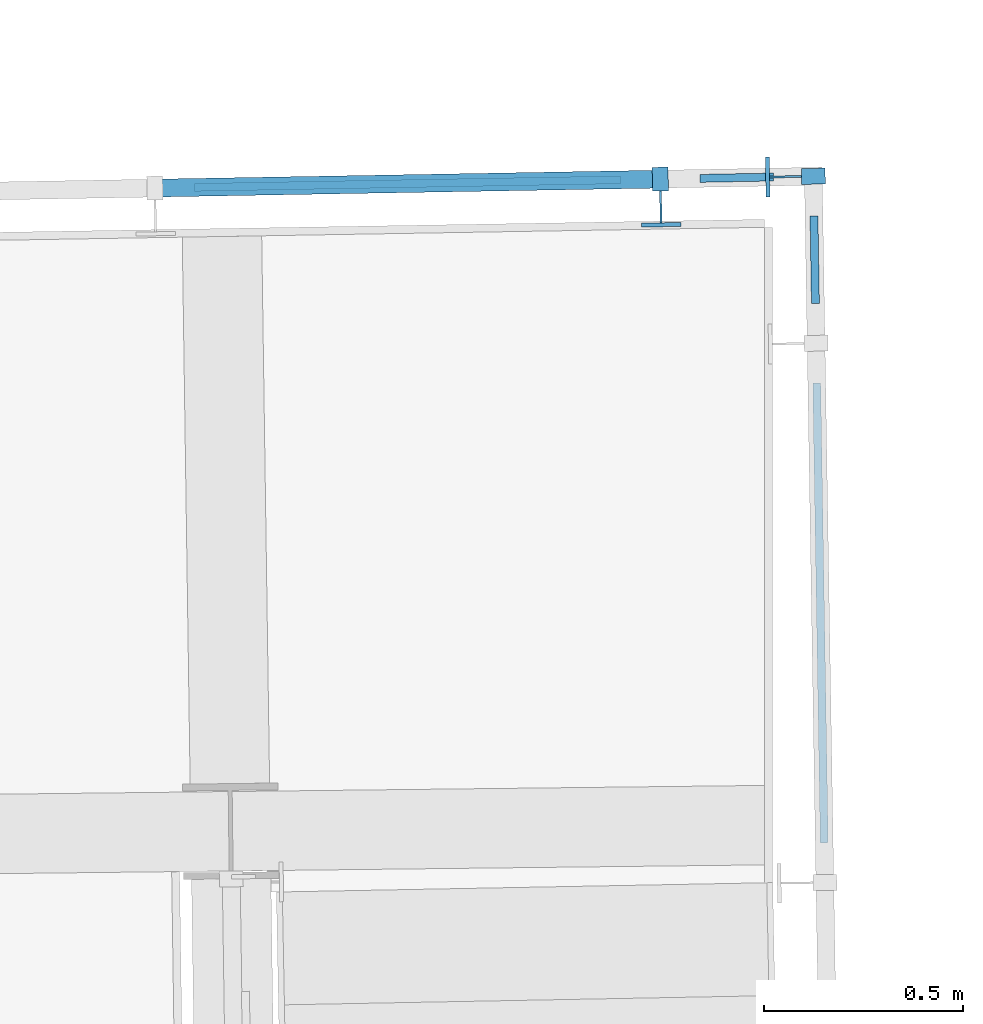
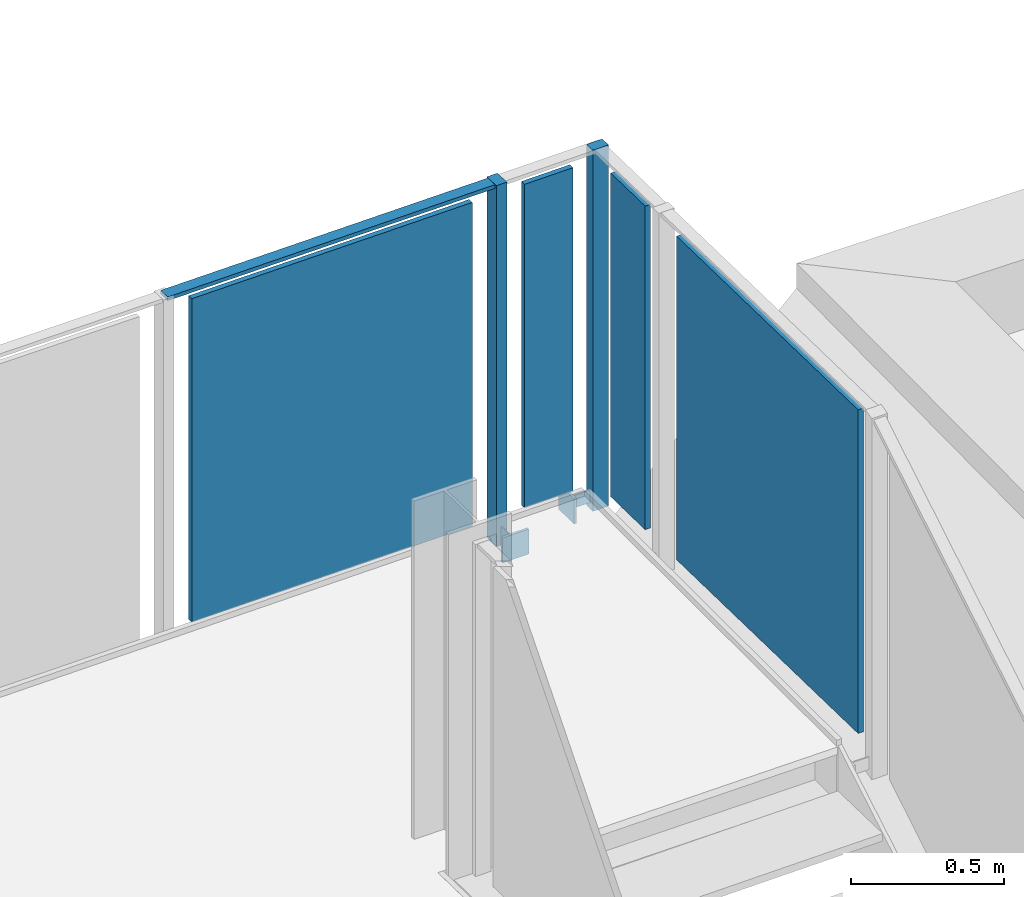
# One storey, part 112 of 158: 7 building element parts, 1 element without a shape of its own.
"""IFC2X3 building model written with IfcOpenShell, lengths in metres."""

from ifc_helpers import new_model, entity, si_unit, converted_unit, derived_unit, money_unit, direction, frame, origin_with_axes, place, context, subcontext, project, spatial, faceted_brep, material, type_object, element, aggregate, save


model = new_model("IFC2X3")

# Units and contexts
model_context = context("Model", 3, precision=1e-05, world=origin_with_axes(), true_north=direction((0.0, 1.0)))
body_context = subcontext(model_context, "Body", "Model", "MODEL_VIEW")
ifc_project = project(units=[si_unit("LENGTHUNIT", "METRE"), si_unit("AREAUNIT", "SQUARE_METRE"), si_unit("VOLUMEUNIT", "CUBIC_METRE"), converted_unit("PLANEANGLEUNIT", "DEGREE", entity("IfcPlaneAngleMeasure", 0.0174532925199), si_unit("PLANEANGLEUNIT", "RADIAN"), dimensions=[0, 0, 0, 0, 0, 0, 0]), money_unit("EUR"), converted_unit("TIMEUNIT", "Year", entity("IfcTimeMeasure", 31556926.0), si_unit("TIMEUNIT", "SECOND"), dimensions=[0, 0, 1, 0, 0, 0, 0]), si_unit("MASSUNIT", "GRAM", prefix="KILO"), si_unit("THERMODYNAMICTEMPERATUREUNIT", "DEGREE_CELSIUS"), si_unit("LUMINOUSINTENSITYUNIT", "LUMEN"), si_unit("ENERGYUNIT", "JOULE", prefix="MEGA"), derived_unit("THERMALCONDUCTANCEUNIT", [(si_unit("POWERUNIT", "WATT"), 1), (si_unit("LENGTHUNIT", "METRE"), -1), (si_unit("THERMODYNAMICTEMPERATUREUNIT", "KELVIN"), -1)]), derived_unit("SPECIFICHEATCAPACITYUNIT", [(si_unit("ENERGYUNIT", "JOULE"), 1), (si_unit("MASSUNIT", "GRAM", prefix="KILO"), -1), (si_unit("THERMODYNAMICTEMPERATUREUNIT", "KELVIN"), -1)]), derived_unit("MASSDENSITYUNIT", [(si_unit("MASSUNIT", "GRAM", prefix="KILO"), 1), (si_unit("VOLUMEUNIT", "CUBIC_METRE"), -1)])], contexts=[model_context])

# Site, building, storey
site_placement = place(None, origin_with_axes())
site = spatial("IfcSite", under=ifc_project, at=site_placement, Name="Gelände", CompositionType="ELEMENT")
building_placement = place(site_placement, origin_with_axes())
building = spatial("IfcBuilding", under=site, at=building_placement, Name="Gebäude", CompositionType="ELEMENT")
storey_placement = place(building_placement, origin_with_axes())
storey = spatial("IfcBuildingStorey", under=building, at=storey_placement, Name="ERDGESCHOSS", CompositionType="ELEMENT", Elevation=0.0)

# Proxy, building element parts
building_element_proxy_type = type_object("IfcBuildingElementProxyType", Name="Geländerart", PredefinedType="NOTDEFINED")
proxy_placement = place(storey_placement, frame((-12.121386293, 39.1724071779, -2.51797066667), z_axis=(0.0, 0.0, 1.0), x_axis=(1.0, 0.0, 0.0)))
proxy = element("IfcBuildingElementProxy", 1, at=proxy_placement, inside=storey, type_object=building_element_proxy_type, Name="Geländer-001")
ifc_material = material(Name="56_Metall, Stahl verzinkt")
building_element_part_1_placement = place(proxy_placement, origin_with_axes())
building_element_part_1 = element("IfcBuildingElementPart", 2, at=building_element_part_1_placement, material=ifc_material, Name="56_Metall, Stahl verzinkt", context=body_context, shape_type="Brep", body=[
    faceted_brep([(-0.0235976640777, 8.35761535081, 3.748423), (-0.0236802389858, 8.36261466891, 3.748423), (-0.103669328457, 8.36129347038, 3.748423), (-0.103586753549, 8.35629415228, 3.748423), (-0.0236802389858, 8.36261466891, 3.698423), (-0.0235976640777, 8.35761535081, 3.698423), (-0.103669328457, 8.36129347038, 3.698423), (-0.103586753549, 8.35629415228, 3.698423)], [[[0, 1, 2, 3]], [[4, 1, 0, 5]], [[1, 4, 6, 2]], [[7, 3, 2, 6]], [[5, 0, 3, 7]], [[4, 5, 7, 6]]]),
    faceted_brep([(-0.112800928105, 8.30863548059, 3.773423), (-0.102802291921, 8.30880063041, 3.773423), (-0.104453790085, 8.40878699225, 3.773423), (-0.114452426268, 8.40862184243, 3.773423), (-0.112800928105, 8.30863548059, 3.673423), (-0.102802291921, 8.30880063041, 3.673423), (-0.104453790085, 8.40878699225, 3.673423), (-0.114452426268, 8.40862184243, 3.673423)], [[[0, 1, 2, 3]], [[4, 5, 1, 0]], [[1, 5, 6, 2]], [[3, 2, 6, 7]], [[0, 3, 7, 4]], [[7, 6, 5, 4]]]),
    faceted_brep([(0.0360225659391, 8.38110318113, 3.673423), (-0.0239692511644, 8.38011228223, 3.673423), (-0.0239692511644, 8.38011228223, 5.118423), (0.0360225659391, 8.38110318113, 5.118423), (0.0366831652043, 8.34110863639, 3.673423), (-0.0233086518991, 8.34011773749, 3.673423), (-0.0233086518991, 8.34011773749, 5.118423), (0.0366831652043, 8.34110863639, 5.118423)], [[[0, 1, 2, 3]], [[0, 4, 5, 1]], [[1, 5, 6, 2]], [[3, 2, 6, 7]], [[4, 0, 3, 7]], [[5, 4, 7, 6]]]),
])
building_element_part_2_placement = place(proxy_placement, origin_with_axes())
building_element_part_2 = element("IfcBuildingElementPart", 3, at=building_element_part_2_placement, material=ifc_material, Name="56_Metall, Stahl verzinkt", context=body_context, shape_type="Brep", body=[
    faceted_brep([(-0.375842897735, 8.32349191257, 3.748423), (-0.38084203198, 8.32339887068, 3.748423), (-0.379353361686, 8.24341272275, 3.748423), (-0.37435422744, 8.24350576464, 3.748423), (-0.38084203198, 8.32339887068, 3.698423), (-0.375842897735, 8.32349191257, 3.698423), (-0.379353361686, 8.24341272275, 3.698423), (-0.37435422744, 8.24350576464, 3.698423)], [[[0, 1, 2, 3]], [[4, 1, 0, 5]], [[1, 4, 6, 2]], [[7, 3, 2, 6]], [[5, 0, 3, 7]], [[4, 5, 7, 6]]]),
    faceted_brep([(-0.32667636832, 8.23439139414, 3.773423), (-0.326862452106, 8.24438966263, 3.773423), (-0.426845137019, 8.24252882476, 3.773423), (-0.426659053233, 8.23253055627, 3.773423), (-0.32667636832, 8.23439139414, 3.673423), (-0.326862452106, 8.24438966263, 3.673423), (-0.426845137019, 8.24252882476, 3.673423), (-0.426659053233, 8.23253055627, 3.673423)], [[[0, 1, 2, 3]], [[4, 5, 1, 0]], [[1, 5, 6, 2]], [[3, 2, 6, 7]], [[0, 3, 7, 4]], [[7, 6, 5, 4]]]),
    faceted_brep([(-0.399455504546, 8.383062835, 3.67343830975), (-0.398339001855, 8.32307322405, 3.67343827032), (-0.398339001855, 8.32307322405, 5.11843827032), (-0.399455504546, 8.383062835, 5.11843830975), (-0.35946243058, 8.38380717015, 3.67340772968), (-0.35834592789, 8.3238175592, 3.67340769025), (-0.35834592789, 8.3238175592, 5.11840769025), (-0.35946243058, 8.38380717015, 5.11840772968)], [[[0, 1, 2, 3]], [[0, 4, 5, 1]], [[1, 5, 6, 2]], [[3, 2, 6, 7]], [[4, 0, 3, 7]], [[5, 4, 7, 6]]]),
])
building_element_part_3_placement = place(proxy_placement, origin_with_axes())
building_element_part_3 = element("IfcBuildingElementPart", 4, at=building_element_part_3_placement, material=ifc_material, Name="56_Metall, Stahl verzinkt", context=body_context, shape_type="Brep", body=[
    faceted_brep([(0.00493221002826, 7.8400687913, 3.773423), (0.0238065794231, 6.68243648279, 3.773423), (0.0238065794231, 6.68243648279, 5.068423), (0.00493221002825, 7.8400687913, 5.068423), (0.0234805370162, 6.70243382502, 5.048423), (0.0234805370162, 6.70243382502, 3.793423), (0.00525825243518, 7.82007144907, 3.793423), (0.00525825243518, 7.82007144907, 5.048423), (0.0438039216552, 6.6827625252, 3.773423), (0.0249295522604, 7.84039483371, 3.773423), (0.0438039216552, 6.6827625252, 5.068423), (0.0249295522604, 7.84039483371, 5.068423), (0.0434778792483, 6.70275986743, 3.793423), (0.0434778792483, 6.70275986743, 5.048423), (0.0252555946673, 7.82039749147, 3.793423), (0.0252555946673, 7.82039749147, 5.048423)], [[[0, 1, 2, 3], [4, 5, 6, 7]], [[8, 1, 0, 9]], [[10, 2, 1, 8]], [[3, 2, 10, 11]], [[0, 3, 11, 9]], [[12, 5, 4, 13]], [[14, 6, 5, 12]], [[7, 6, 14, 15]], [[4, 7, 15, 13]], [[10, 8, 9, 11], [14, 12, 13, 15]]]),
    faceted_brep([(0.00525825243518, 7.82007144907, 3.793423), (0.0234805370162, 6.70243382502, 3.793423), (0.0234805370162, 6.70243382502, 5.048423), (0.00525825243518, 7.82007144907, 5.048423), (0.0434778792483, 6.70275986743, 3.793423), (0.0252555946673, 7.82039749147, 3.793423), (0.0434778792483, 6.70275986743, 5.048423), (0.0252555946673, 7.82039749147, 5.048423)], [[[0, 1, 2, 3]], [[4, 1, 0, 5]], [[6, 2, 1, 4]], [[3, 2, 6, 7]], [[0, 3, 7, 5]], [[6, 4, 5, 7]]]),
])
building_element_part_4_placement = place(proxy_placement, origin_with_axes())
building_element_part_4 = element("IfcBuildingElementPart", 5, at=building_element_part_4_placement, material=ifc_material, Name="56_Metall, Stahl verzinkt", context=body_context, shape_type="Brep", body=[
    faceted_brep([(-0.00199018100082, 8.26045894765, 3.773423), (0.00165053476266, 8.04003973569, 3.773423), (0.00165053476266, 8.04003973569, 5.068423), (-0.00199018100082, 8.26045894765, 5.068423), (0.00132023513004, 8.06003700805, 5.048423), (0.00132023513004, 8.06003700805, 3.793423), (-0.0016598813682, 8.24046167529, 3.793423), (-0.0016598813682, 8.24046167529, 5.048423), (0.0216478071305, 8.04037003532, 3.773423), (0.018007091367, 8.26078924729, 3.773423), (0.0216478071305, 8.04037003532, 5.068423), (0.018007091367, 8.26078924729, 5.068423), (0.0213175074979, 8.06036730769, 3.793423), (0.0213175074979, 8.06036730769, 5.048423), (0.0183373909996, 8.24079197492, 3.793423), (0.0183373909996, 8.24079197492, 5.048423)], [[[0, 1, 2, 3], [4, 5, 6, 7]], [[8, 1, 0, 9]], [[10, 2, 1, 8]], [[3, 2, 10, 11]], [[0, 3, 11, 9]], [[12, 5, 4, 13]], [[14, 6, 5, 12]], [[7, 6, 14, 15]], [[4, 7, 15, 13]], [[10, 8, 9, 11], [14, 12, 13, 15]]]),
    faceted_brep([(-0.0016598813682, 8.24046167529, 3.793423), (0.00132023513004, 8.06003700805, 3.793423), (0.00132023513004, 8.06003700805, 5.048423), (-0.0016598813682, 8.24046167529, 5.048423), (0.0213175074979, 8.06036730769, 3.793423), (0.0183373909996, 8.24079197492, 3.793423), (0.0213175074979, 8.06036730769, 5.048423), (0.0183373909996, 8.24079197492, 5.048423)], [[[0, 1, 2, 3]], [[4, 1, 0, 5]], [[6, 2, 1, 4]], [[3, 2, 6, 7]], [[0, 3, 7, 5]], [[6, 4, 5, 7]]]),
])
building_element_part_5_placement = place(proxy_placement, origin_with_axes())
building_element_part_5 = element("IfcBuildingElementPart", 6, at=building_element_part_5_placement, material=ifc_material, Name="56_Metall, Stahl verzinkt", context=body_context, shape_type="Brep", body=[
    faceted_brep([(-0.278731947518, 8.34530276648, 3.773423), (-0.0934396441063, 8.34875135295, 3.773423), (-0.0934396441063, 8.34875135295, 5.068423), (-0.278731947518, 8.34530276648, 5.068423), (-0.113436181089, 8.34837918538, 5.048423), (-0.113436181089, 8.34837918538, 3.793423), (-0.258735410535, 8.34567493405, 3.793423), (-0.258735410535, 8.34567493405, 5.048423), (-0.0938118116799, 8.36874788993, 3.773423), (-0.279104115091, 8.36529930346, 3.773423), (-0.0938118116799, 8.36874788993, 5.068423), (-0.279104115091, 8.36529930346, 5.068423), (-0.113808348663, 8.36837572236, 3.793423), (-0.113808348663, 8.36837572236, 5.048423), (-0.259107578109, 8.36567147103, 3.793423), (-0.259107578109, 8.36567147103, 5.048423)], [[[0, 1, 2, 3], [4, 5, 6, 7]], [[8, 1, 0, 9]], [[10, 2, 1, 8]], [[3, 2, 10, 11]], [[0, 3, 11, 9]], [[12, 5, 4, 13]], [[14, 6, 5, 12]], [[7, 6, 14, 15]], [[4, 7, 15, 13]], [[10, 8, 9, 11], [14, 12, 13, 15]]]),
    faceted_brep([(-0.258735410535, 8.34567493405, 3.793423), (-0.113436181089, 8.34837918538, 3.793423), (-0.113436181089, 8.34837918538, 5.048423), (-0.258735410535, 8.34567493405, 5.048423), (-0.113808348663, 8.36837572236, 3.793423), (-0.259107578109, 8.36567147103, 3.793423), (-0.113808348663, 8.36837572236, 5.048423), (-0.259107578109, 8.36567147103, 5.048423)], [[[0, 1, 2, 3]], [[4, 1, 0, 5]], [[6, 2, 1, 4]], [[3, 2, 6, 7]], [[0, 3, 7, 5]], [[6, 4, 5, 7]]]),
])
building_element_part_6_placement = place(proxy_placement, origin_with_axes())
building_element_part_6 = element("IfcBuildingElementPart", 7, at=building_element_part_6_placement, material=ifc_material, Name="56_Metall, Stahl verzinkt", context=body_context, shape_type="Brep", body=[
    faceted_brep([(-0.379309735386, 8.37593648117, 5.118423), (-0.379321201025, 8.3759362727, 5.103423), (-1.65178863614, 8.35334785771, 5.10536893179), (-0.37849169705, 8.33094391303, 5.118423), (-0.378503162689, 8.33094370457, 5.103423), (-1.65099129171, 8.30835492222, 5.10536893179), (-1.6517285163, 8.35334892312, 5.12036885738), (-1.65093117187, 8.30835598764, 5.12036885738)], [[[0, 1, 2]], [[0, 3, 4, 1]], [[1, 5, 2]], [[0, 2, 6]], [[3, 0, 6]], [[4, 3, 7]], [[1, 4, 5]], [[6, 2, 5, 7]], [[3, 6, 7]], [[4, 7, 5]]]),
])
building_element_part_7_placement = place(proxy_placement, origin_with_axes())
building_element_part_7 = element("IfcBuildingElementPart", 8, at=building_element_part_7_placement, material=ifc_material, Name="56_Metall, Stahl verzinkt", context=body_context, shape_type="Brep", body=[
    faceted_brep([(-1.55116810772, 8.32262891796, 3.77521595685), (-0.478707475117, 8.34166688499, 3.77357590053), (-0.478707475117, 8.34166688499, 5.06857590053), (-1.55116810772, 8.32262891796, 5.07021595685), (-0.498704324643, 8.34131190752, 5.04860645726), (-0.498704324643, 8.34131190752, 3.79360650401), (-1.53117125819, 8.32298389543, 3.79518540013), (-1.53117125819, 8.32298389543, 5.05018535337), (-0.479062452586, 8.36166373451, 3.77357590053), (-1.55152308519, 8.34262576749, 3.77521595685), (-0.479062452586, 8.36166373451, 5.06857590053), (-1.55152308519, 8.34262576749, 5.07021595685), (-0.499059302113, 8.36130875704, 3.79360650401), (-0.499059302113, 8.36130875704, 5.04860645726), (-1.53152623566, 8.34298074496, 3.79518540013), (-1.53152623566, 8.34298074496, 5.05018535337)], [[[0, 1, 2, 3], [4, 5, 6, 7]], [[8, 1, 0, 9]], [[10, 2, 1, 8]], [[3, 2, 10, 11]], [[0, 3, 11, 9]], [[12, 5, 4, 13]], [[14, 6, 5, 12]], [[7, 6, 14, 15]], [[4, 7, 15, 13]], [[10, 8, 9, 11], [14, 12, 13, 15]]]),
    faceted_brep([(-1.53117125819, 8.32298389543, 3.79518540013), (-0.498704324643, 8.34131190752, 3.79360650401), (-0.498704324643, 8.34131190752, 5.04860645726), (-1.53117125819, 8.32298389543, 5.05018535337), (-0.499059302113, 8.36130875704, 3.79360650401), (-1.53152623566, 8.34298074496, 3.79518540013), (-0.499059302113, 8.36130875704, 5.04860645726), (-1.53152623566, 8.34298074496, 5.05018535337)], [[[0, 1, 2, 3]], [[4, 1, 0, 5]], [[6, 2, 1, 4]], [[3, 2, 6, 7]], [[0, 3, 7, 5]], [[6, 4, 5, 7]]]),
])
aggregate(proxy, [building_element_part_1, building_element_part_2, building_element_part_3, building_element_part_4, building_element_part_5, building_element_part_6, building_element_part_7])

save(model, "model.ifc")
